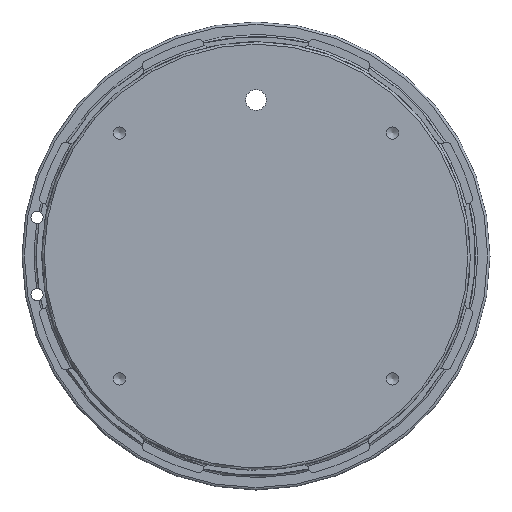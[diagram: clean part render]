
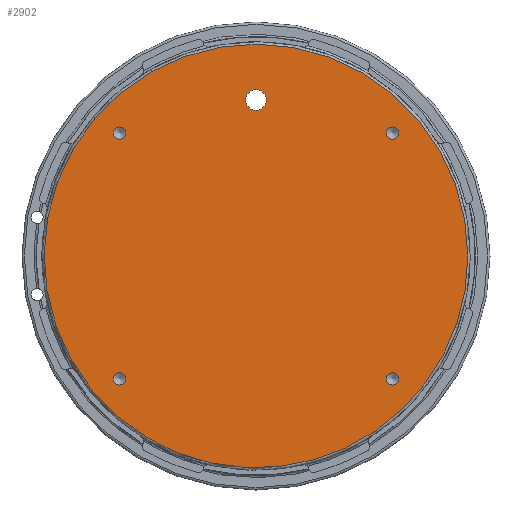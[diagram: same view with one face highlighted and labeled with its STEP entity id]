
A CAD part, front view. The second image highlights one B-rep face of the part: STEP entity #2902.
In plain terms, the highlighted planar face has unit normal (0, -1, 0).
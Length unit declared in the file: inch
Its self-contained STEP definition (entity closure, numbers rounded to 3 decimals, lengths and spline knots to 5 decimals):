
#583=FACE_BOUND('',#938,.T.);
#584=FACE_BOUND('',#939,.T.);
#585=FACE_BOUND('',#940,.T.);
#586=FACE_BOUND('',#941,.T.);
#587=FACE_BOUND('',#942,.T.);
#588=FACE_BOUND('',#943,.T.);
#938=EDGE_LOOP('',(#2670));
#939=EDGE_LOOP('',(#2671));
#940=EDGE_LOOP('',(#2672));
#941=EDGE_LOOP('',(#2673));
#942=EDGE_LOOP('',(#2674));
#943=EDGE_LOOP('',(#2675));
#953=CIRCLE('',#2918,0.1335);
#1012=CIRCLE('',#2995,0.078);
#1014=CIRCLE('',#2999,0.078);
#1016=CIRCLE('',#3003,0.078);
#1018=CIRCLE('',#3007,0.078);
#1218=CIRCLE('',#3339,2.716);
#1223=VERTEX_POINT('',#4344);
#1318=VERTEX_POINT('',#4614);
#1320=VERTEX_POINT('',#4620);
#1322=VERTEX_POINT('',#4626);
#1324=VERTEX_POINT('',#4632);
#1487=VERTEX_POINT('',#5381);
#1491=EDGE_CURVE('',#1223,#1223,#953,.T.);
#1594=EDGE_CURVE('',#1318,#1318,#1012,.T.);
#1596=EDGE_CURVE('',#1320,#1320,#1014,.T.);
#1598=EDGE_CURVE('',#1322,#1322,#1016,.T.);
#1600=EDGE_CURVE('',#1324,#1324,#1018,.T.);
#1889=EDGE_CURVE('',#1487,#1487,#1218,.T.);
#2670=ORIENTED_EDGE('',*,*,#1491,.T.);
#2671=ORIENTED_EDGE('',*,*,#1594,.T.);
#2672=ORIENTED_EDGE('',*,*,#1596,.T.);
#2673=ORIENTED_EDGE('',*,*,#1598,.T.);
#2674=ORIENTED_EDGE('',*,*,#1600,.T.);
#2675=ORIENTED_EDGE('',*,*,#1889,.F.);
#2741=PLANE('',#3340);
#2902=ADVANCED_FACE('',(#583,#584,#585,#586,#587,#588),#2741,.T.);
#2918=AXIS2_PLACEMENT_3D('',#4345,#3362,#3363);
#2995=AXIS2_PLACEMENT_3D('',#4615,#3552,#3553);
#2999=AXIS2_PLACEMENT_3D('',#4621,#3560,#3561);
#3003=AXIS2_PLACEMENT_3D('',#4627,#3568,#3569);
#3007=AXIS2_PLACEMENT_3D('',#4633,#3576,#3577);
#3339=AXIS2_PLACEMENT_3D('',#5382,#4314,#4315);
#3340=AXIS2_PLACEMENT_3D('',#5383,#4316,#4317);
#3362=DIRECTION('center_axis',(0.,1.,0.));
#3363=DIRECTION('ref_axis',(-1.,0.,0.));
#3552=DIRECTION('center_axis',(0.,1.,0.));
#3553=DIRECTION('ref_axis',(1.,0.,0.));
#3560=DIRECTION('center_axis',(0.,1.,0.));
#3561=DIRECTION('ref_axis',(1.,0.,0.));
#3568=DIRECTION('center_axis',(0.,1.,0.));
#3569=DIRECTION('ref_axis',(1.,0.,0.));
#3576=DIRECTION('center_axis',(0.,1.,0.));
#3577=DIRECTION('ref_axis',(1.,0.,0.));
#4314=DIRECTION('center_axis',(0.,1.,0.));
#4315=DIRECTION('ref_axis',(-1.,0.,0.));
#4316=DIRECTION('center_axis',(0.,-1.,0.));
#4317=DIRECTION('ref_axis',(0.,0.,-1.));
#4344=CARTESIAN_POINT('',(0.1335,-0.6575,2.));
#4345=CARTESIAN_POINT('Origin',(0.,-0.6575,2.));
#4614=CARTESIAN_POINT('',(1.82903,-0.6575,-1.57664));
#4615=CARTESIAN_POINT('Origin',(1.75103,-0.6575,-1.57664));
#4620=CARTESIAN_POINT('',(-1.67303,-0.6575,1.57664));
#4621=CARTESIAN_POINT('Origin',(-1.75103,-0.6575,1.57664));
#4626=CARTESIAN_POINT('',(1.82903,-0.6575,1.57664));
#4627=CARTESIAN_POINT('Origin',(1.75103,-0.6575,1.57664));
#4632=CARTESIAN_POINT('',(-1.67303,-0.6575,-1.57664));
#4633=CARTESIAN_POINT('Origin',(-1.75103,-0.6575,-1.57664));
#5381=CARTESIAN_POINT('',(2.716,-0.6575,0.));
#5382=CARTESIAN_POINT('Origin',(0.,-0.6575,0.));
#5383=CARTESIAN_POINT('Origin',(2.5,-0.6575,0.));
